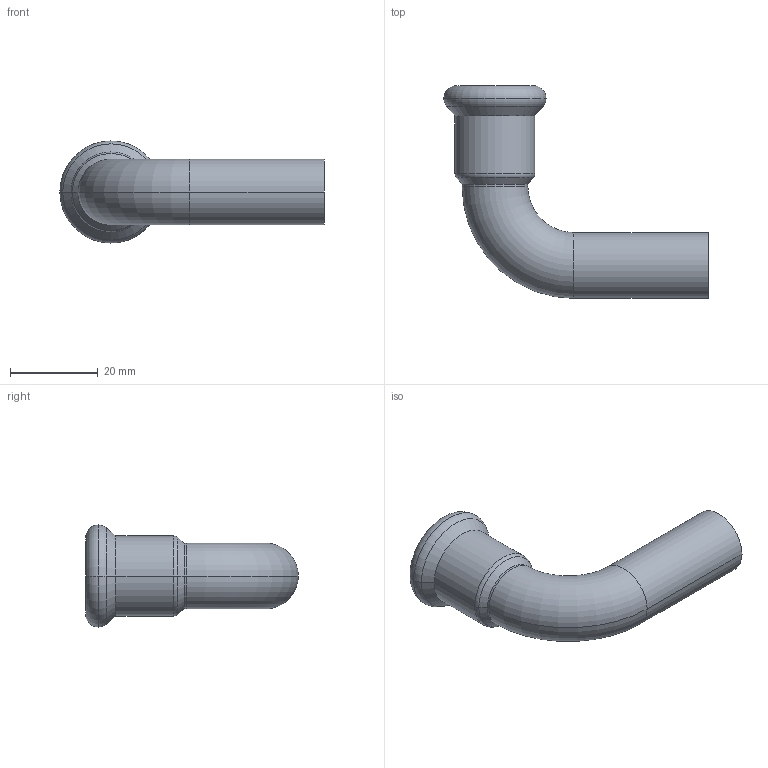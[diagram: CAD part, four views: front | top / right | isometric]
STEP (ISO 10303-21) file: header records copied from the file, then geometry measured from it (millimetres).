
FILE_DESCRIPTION(('OneSpaceDesigner STEP Export'),'2;1');
FILE_NAME('R2711 15x15.stp','2010-06-09T14:51:15',(''),(''),'OneSpace Designer STEP processor for AP214 (Solid Model)','OneSpace Modeling 15.00A 14-Mar-2007 (C) CoCreate Software GmbH','');
FILE_SCHEMA(('AUTOMOTIVE_DESIGN { 1 0 10303 214 1 1 1 1 }'));
Length unit declared in the file: millimetre
Products named in the file (2): R2711_15x15
Assembly tree (1 placements, depth 2):
  R2711_15x15
    R2711_15x15
Bounding box: 60.25 x 48.5 x 23.3 mm (x, y, z)
Volume: 5247.6 mm3; surface area: 8282.8 mm2
Topology: 1 solids, 1 shells, 68 faces, 165 edges, 104 vertices
Faces by surface type: plane 31, cylinder 23, torus 10, cone 4
Entity records: 1813 total; most frequent: ORIENTED_EDGE 330, CARTESIAN_POINT 290, DIRECTION 279, EDGE_CURVE 165, VERTEX_POINT 104, AXIS2_PLACEMENT_3D 93, VECTOR 93, LINE 93
